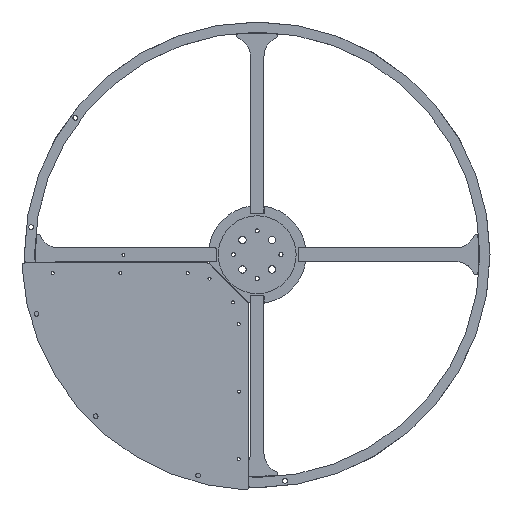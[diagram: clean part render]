
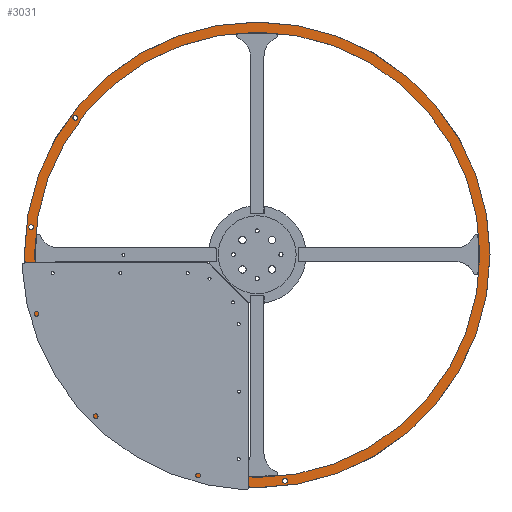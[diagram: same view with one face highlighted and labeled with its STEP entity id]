
A CAD part, top view. The second image highlights one B-rep face of the part: STEP entity #3031.
In plain terms, the highlighted planar face has unit normal (0, 0, 1).
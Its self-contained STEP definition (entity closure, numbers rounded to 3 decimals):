
#12 = ORIENTED_EDGE ( 'NONE', *, *, #6886, .T. ) ;
#130 = CARTESIAN_POINT ( 'NONE',  ( -345., 0., 28. ) ) ;
#147 = CARTESIAN_POINT ( 'NONE',  ( -131.872, -310.67, 28. ) ) ;
#174 = EDGE_CURVE ( 'NONE', #1280, #5069, #685, .T. ) ;
#242 = CARTESIAN_POINT ( 'NONE',  ( 330., 0., 28. ) ) ;
#278 = DIRECTION ( 'NONE',  ( 0., 0., -1. ) ) ;
#279 = VERTEX_POINT ( 'NONE', #3428 ) ;
#297 = CARTESIAN_POINT ( 'NONE',  ( -338.484, 41.131, 28. ) ) ;
#380 = EDGE_LOOP ( 'NONE', ( #8636, #12 ) ) ;
#394 = EDGE_CURVE ( 'NONE', #279, #6422, #2387, .T. ) ;
#442 = CIRCLE ( 'NONE', #6330, 330. ) ;
#478 = EDGE_CURVE ( 'NONE', #9287, #4023, #4214, .T. ) ;
#685 = CIRCLE ( 'NONE', #6042, 3.5 ) ;
#774 = DIRECTION ( 'NONE',  ( 0., 0., -1. ) ) ;
#788 = FACE_BOUND ( 'NONE', #1163, .T. ) ;
#790 = DIRECTION ( 'NONE',  ( 0., 0., 1. ) ) ;
#812 = DIRECTION ( 'NONE',  ( 1., 0., 0. ) ) ;
#975 = CARTESIAN_POINT ( 'NONE',  ( -334.984, 41.131, 28. ) ) ;
#1080 = AXIS2_PLACEMENT_3D ( 'NONE', #3354, #790, #7993 ) ;
#1161 = CIRCLE ( 'NONE', #9073, 3.5 ) ;
#1163 = EDGE_LOOP ( 'NONE', ( #8774, #2099 ) ) ;
#1280 = VERTEX_POINT ( 'NONE', #297 ) ;
#1586 = FACE_BOUND ( 'NONE', #380, .T. ) ;
#1626 = CIRCLE ( 'NONE', #5137, 330. ) ;
#1694 = CARTESIAN_POINT ( 'NONE',  ( 37.631, -334.984, 28. ) ) ;
#1872 = AXIS2_PLACEMENT_3D ( 'NONE', #4772, #2380, #4087 ) ;
#1881 = VERTEX_POINT ( 'NONE', #4196 ) ;
#1886 = AXIS2_PLACEMENT_3D ( 'NONE', #5104, #2645, #9011 ) ;
#1978 = EDGE_CURVE ( 'NONE', #4023, #9287, #3597, .T. ) ;
#2047 = DIRECTION ( 'NONE',  ( -1., 0., 0. ) ) ;
#2099 = ORIENTED_EDGE ( 'NONE', *, *, #3062, .T. ) ;
#2342 = EDGE_CURVE ( 'NONE', #8073, #1881, #8693, .T. ) ;
#2345 = EDGE_CURVE ( 'NONE', #9803, #8489, #442, .T. ) ;
#2380 = DIRECTION ( 'NONE',  ( 0., 0., 1. ) ) ;
#2387 = CIRCLE ( 'NONE', #2703, 345. ) ;
#2401 = DIRECTION ( 'NONE',  ( 0., 0., 1. ) ) ;
#2430 = DIRECTION ( 'NONE',  ( -1., 0., 0. ) ) ;
#2437 = CARTESIAN_POINT ( 'NONE',  ( -131.872, -310.67, 28. ) ) ;
#2576 = CARTESIAN_POINT ( 'NONE',  ( 41.131, -334.984, 28. ) ) ;
#2645 = DIRECTION ( 'NONE',  ( 0., 0., -1. ) ) ;
#2696 = EDGE_CURVE ( 'NONE', #4371, #3022, #9418, .T. ) ;
#2703 = AXIS2_PLACEMENT_3D ( 'NONE', #5373, #2842, #7073 ) ;
#2842 = DIRECTION ( 'NONE',  ( 0., 0., 1. ) ) ;
#3022 = VERTEX_POINT ( 'NONE', #9589 ) ;
#3028 = AXIS2_PLACEMENT_3D ( 'NONE', #147, #5327, #3453 ) ;
#3031 = ADVANCED_FACE ( 'NONE', ( #6413, #8841, #4924, #788, #8150, #1586 ), #3973, .T. ) ;
#3062 = EDGE_CURVE ( 'NONE', #3022, #4371, #7743, .T. ) ;
#3172 = ORIENTED_EDGE ( 'NONE', *, *, #478, .T. ) ;
#3354 = CARTESIAN_POINT ( 'NONE',  ( 0., 0., 28. ) ) ;
#3428 = CARTESIAN_POINT ( 'NONE',  ( 345., 0., 28. ) ) ;
#3453 = DIRECTION ( 'NONE',  ( -1., 0., 0. ) ) ;
#3501 = EDGE_LOOP ( 'NONE', ( #4098, #7620 ) ) ;
#3597 = CIRCLE ( 'NONE', #9506, 3.5 ) ;
#3641 = ORIENTED_EDGE ( 'NONE', *, *, #1978, .T. ) ;
#3736 = EDGE_LOOP ( 'NONE', ( #3172, #3641 ) ) ;
#3892 = EDGE_CURVE ( 'NONE', #6422, #279, #7460, .T. ) ;
#3973 = PLANE ( 'NONE',  #1872 ) ;
#4023 = VERTEX_POINT ( 'NONE', #4980 ) ;
#4033 = DIRECTION ( 'NONE',  ( 0., 0., -1. ) ) ;
#4076 = DIRECTION ( 'NONE',  ( 1., 0., 0. ) ) ;
#4087 = DIRECTION ( 'NONE',  ( 1., 0., 0. ) ) ;
#4098 = ORIENTED_EDGE ( 'NONE', *, *, #9788, .T. ) ;
#4196 = CARTESIAN_POINT ( 'NONE',  ( -273.039, 203.113, 28. ) ) ;
#4214 = CIRCLE ( 'NONE', #1886, 3.5 ) ;
#4371 = VERTEX_POINT ( 'NONE', #8976 ) ;
#4516 = DIRECTION ( 'NONE',  ( 0., 0., -1. ) ) ;
#4706 = ORIENTED_EDGE ( 'NONE', *, *, #3892, .T. ) ;
#4772 = CARTESIAN_POINT ( 'NONE',  ( 0., 0., 28. ) ) ;
#4924 = FACE_BOUND ( 'NONE', #7658, .T. ) ;
#4957 = AXIS2_PLACEMENT_3D ( 'NONE', #10278, #4516, #6899 ) ;
#4980 = CARTESIAN_POINT ( 'NONE',  ( 44.631, -334.984, 28. ) ) ;
#4992 = DIRECTION ( 'NONE',  ( -1., 0., 0. ) ) ;
#5069 = VERTEX_POINT ( 'NONE', #7304 ) ;
#5104 = CARTESIAN_POINT ( 'NONE',  ( 41.131, -334.984, 28. ) ) ;
#5137 = AXIS2_PLACEMENT_3D ( 'NONE', #5424, #2401, #812 ) ;
#5164 = DIRECTION ( 'NONE',  ( -1., 0., 0. ) ) ;
#5233 = DIRECTION ( 'NONE',  ( 0., 0., -1. ) ) ;
#5327 = DIRECTION ( 'NONE',  ( 0., 0., -1. ) ) ;
#5373 = CARTESIAN_POINT ( 'NONE',  ( 0., 0., 28. ) ) ;
#5424 = CARTESIAN_POINT ( 'NONE',  ( 0., 0., 28. ) ) ;
#5651 = ORIENTED_EDGE ( 'NONE', *, *, #5666, .F. ) ;
#5655 = CARTESIAN_POINT ( 'NONE',  ( -269.539, 203.113, 28. ) ) ;
#5666 = EDGE_CURVE ( 'NONE', #8489, #9803, #1626, .T. ) ;
#6042 = AXIS2_PLACEMENT_3D ( 'NONE', #975, #278, #5164 ) ;
#6330 = AXIS2_PLACEMENT_3D ( 'NONE', #10366, #7202, #4076 ) ;
#6413 = FACE_BOUND ( 'NONE', #3736, .T. ) ;
#6422 = VERTEX_POINT ( 'NONE', #130 ) ;
#6731 = CARTESIAN_POINT ( 'NONE',  ( -269.539, 203.113, 28. ) ) ;
#6886 = EDGE_CURVE ( 'NONE', #5069, #1280, #9523, .T. ) ;
#6899 = DIRECTION ( 'NONE',  ( -1., 0., 0. ) ) ;
#7066 = CARTESIAN_POINT ( 'NONE',  ( -266.039, 203.113, 28. ) ) ;
#7073 = DIRECTION ( 'NONE',  ( 1., 0., 0. ) ) ;
#7145 = DIRECTION ( 'NONE',  ( -1., 0., 0. ) ) ;
#7202 = DIRECTION ( 'NONE',  ( 0., 0., 1. ) ) ;
#7304 = CARTESIAN_POINT ( 'NONE',  ( -331.484, 41.131, 28. ) ) ;
#7460 = CIRCLE ( 'NONE', #1080, 345. ) ;
#7468 = DIRECTION ( 'NONE',  ( 0., 0., -1. ) ) ;
#7620 = ORIENTED_EDGE ( 'NONE', *, *, #2342, .T. ) ;
#7658 = EDGE_LOOP ( 'NONE', ( #5651, #10429 ) ) ;
#7743 = CIRCLE ( 'NONE', #3028, 3.5 ) ;
#7936 = CARTESIAN_POINT ( 'NONE',  ( -330., 0., 28. ) ) ;
#7993 = DIRECTION ( 'NONE',  ( 1., 0., 0. ) ) ;
#8073 = VERTEX_POINT ( 'NONE', #7066 ) ;
#8150 = FACE_BOUND ( 'NONE', #3501, .T. ) ;
#8423 = ORIENTED_EDGE ( 'NONE', *, *, #394, .T. ) ;
#8489 = VERTEX_POINT ( 'NONE', #7936 ) ;
#8506 = AXIS2_PLACEMENT_3D ( 'NONE', #5655, #774, #7145 ) ;
#8636 = ORIENTED_EDGE ( 'NONE', *, *, #174, .T. ) ;
#8693 = CIRCLE ( 'NONE', #8506, 3.5 ) ;
#8774 = ORIENTED_EDGE ( 'NONE', *, *, #2696, .T. ) ;
#8841 = FACE_OUTER_BOUND ( 'NONE', #9518, .T. ) ;
#8976 = CARTESIAN_POINT ( 'NONE',  ( -135.372, -310.67, 28. ) ) ;
#9011 = DIRECTION ( 'NONE',  ( -1., 0., 0. ) ) ;
#9073 = AXIS2_PLACEMENT_3D ( 'NONE', #6731, #5233, #2047 ) ;
#9287 = VERTEX_POINT ( 'NONE', #1694 ) ;
#9418 = CIRCLE ( 'NONE', #9785, 3.5 ) ;
#9506 = AXIS2_PLACEMENT_3D ( 'NONE', #2576, #4033, #2430 ) ;
#9518 = EDGE_LOOP ( 'NONE', ( #4706, #8423 ) ) ;
#9523 = CIRCLE ( 'NONE', #4957, 3.5 ) ;
#9589 = CARTESIAN_POINT ( 'NONE',  ( -128.372, -310.67, 28. ) ) ;
#9785 = AXIS2_PLACEMENT_3D ( 'NONE', #2437, #7468, #4992 ) ;
#9788 = EDGE_CURVE ( 'NONE', #1881, #8073, #1161, .T. ) ;
#9803 = VERTEX_POINT ( 'NONE', #242 ) ;
#10278 = CARTESIAN_POINT ( 'NONE',  ( -334.984, 41.131, 28. ) ) ;
#10366 = CARTESIAN_POINT ( 'NONE',  ( 0., 0., 28. ) ) ;
#10429 = ORIENTED_EDGE ( 'NONE', *, *, #2345, .F. ) ;
